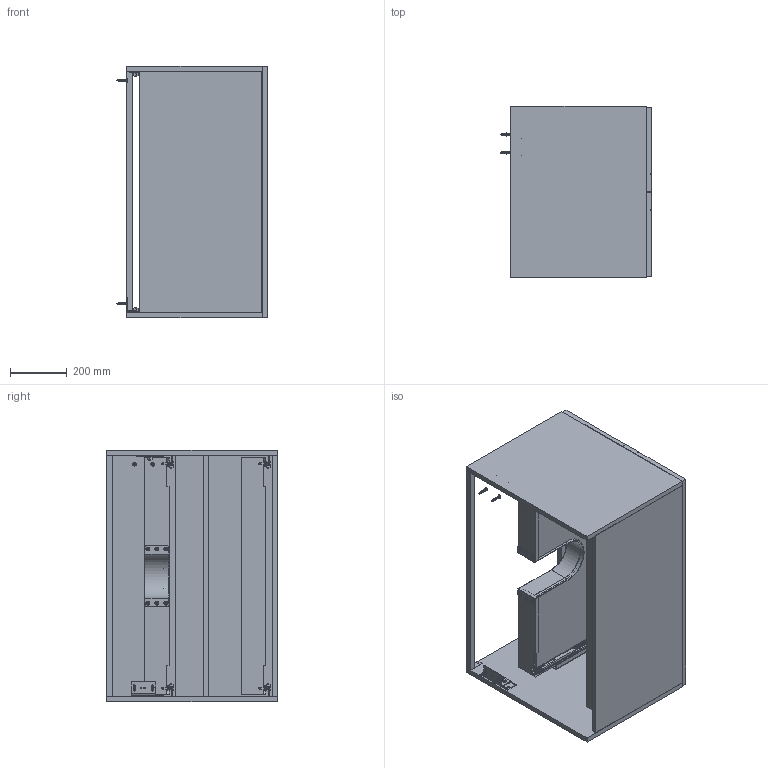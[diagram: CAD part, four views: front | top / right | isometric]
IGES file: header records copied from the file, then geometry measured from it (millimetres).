
Global section: file name: Meta 3D; native system: Autodesk Inventor 2024; preprocessor: unknown; author: pc19; date: 20240613.174246; units: millimetre
Bounding box: 528.7 x 600 x 885 mm (x, y, z)
Volume: 38015357.4 mm3; surface area: 6165278.6 mm2
Topology: 50 solids, 54 shells, 3183 faces, 8326 edges, 5247 vertices
Faces by surface type: bspline 3183
